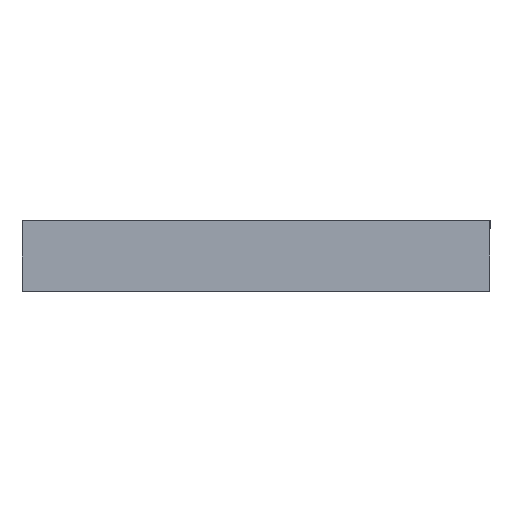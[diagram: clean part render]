
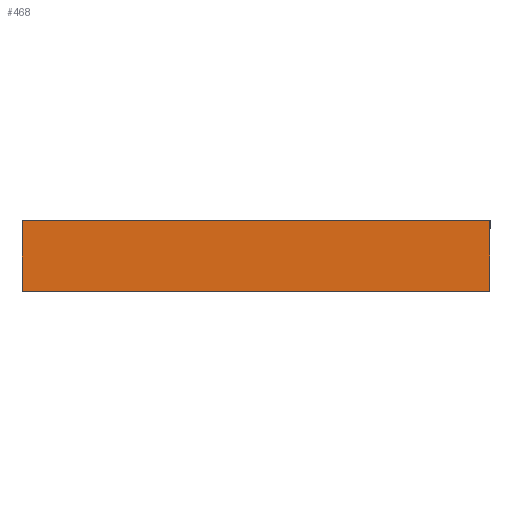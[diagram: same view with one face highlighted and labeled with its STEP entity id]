
A CAD part, left-side view. The second image highlights one B-rep face of the part: STEP entity #468.
In plain terms, the highlighted planar face has unit normal (-1, 0, 0).
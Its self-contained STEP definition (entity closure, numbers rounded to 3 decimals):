
#5 = EDGE_CURVE ( 'NONE', #808, #806, #295, .T. ) ;
#6 = EDGE_CURVE ( 'NONE', #806, #716, #172, .T. ) ;
#28 = EDGE_CURVE ( 'NONE', #808, #788, #273, .T. ) ;
#51 = AXIS2_PLACEMENT_3D ( 'NONE', #574, #568, #566 ) ;
#87 = EDGE_CURVE ( 'NONE', #788, #716, #153, .T. ) ;
#115 = FACE_OUTER_BOUND ( 'NONE', #309, .T. ) ;
#152 = VECTOR ( 'NONE', #658, 1000. ) ;
#153 = LINE ( 'NONE', #659, #152 ) ;
#172 = LINE ( 'NONE', #605, #294 ) ;
#258 = VECTOR ( 'NONE', #787, 1000. ) ;
#273 = LINE ( 'NONE', #798, #258 ) ;
#293 = VECTOR ( 'NONE', #610, 1000. ) ;
#294 = VECTOR ( 'NONE', #575, 1000. ) ;
#295 = LINE ( 'NONE', #612, #293 ) ;
#309 = EDGE_LOOP ( 'NONE', ( #362, #363, #364, #365 ) ) ;
#362 = ORIENTED_EDGE ( 'NONE', *, *, #87, .T. ) ;
#363 = ORIENTED_EDGE ( 'NONE', *, *, #6, .F. ) ;
#364 = ORIENTED_EDGE ( 'NONE', *, *, #5, .F. ) ;
#365 = ORIENTED_EDGE ( 'NONE', *, *, #28, .T. ) ;
#468 = ADVANCED_FACE ( 'NONE', ( #115 ), #578, .F. ) ;
#515 = CARTESIAN_POINT ( 'NONE',  ( -300., 429., 65. ) ) ;
#516 = CARTESIAN_POINT ( 'NONE',  ( -300., 0., 65. ) ) ;
#522 = CARTESIAN_POINT ( 'NONE',  ( -300., 429., 0. ) ) ;
#546 = CARTESIAN_POINT ( 'NONE',  ( -300., 0., 0. ) ) ;
#566 = DIRECTION ( 'NONE',  ( 0., 1., 0. ) ) ;
#568 = DIRECTION ( 'NONE',  ( 1., 0., 0. ) ) ;
#574 = CARTESIAN_POINT ( 'NONE',  ( -300., 0., 65. ) ) ;
#575 = DIRECTION ( 'NONE',  ( 0., 0., -1. ) ) ;
#578 = PLANE ( 'NONE',  #51 ) ;
#605 = CARTESIAN_POINT ( 'NONE',  ( -300., 0., 65. ) ) ;
#610 = DIRECTION ( 'NONE',  ( 0., -1., 0. ) ) ;
#612 = CARTESIAN_POINT ( 'NONE',  ( -300., 0., 65. ) ) ;
#658 = DIRECTION ( 'NONE',  ( 0., -1., 0. ) ) ;
#659 = CARTESIAN_POINT ( 'NONE',  ( -300., 0., 0. ) ) ;
#716 = VERTEX_POINT ( 'NONE', #546 ) ;
#787 = DIRECTION ( 'NONE',  ( 0., 0., -1. ) ) ;
#788 = VERTEX_POINT ( 'NONE', #522 ) ;
#798 = CARTESIAN_POINT ( 'NONE',  ( -300., 429., 65. ) ) ;
#806 = VERTEX_POINT ( 'NONE', #516 ) ;
#808 = VERTEX_POINT ( 'NONE', #515 ) ;
